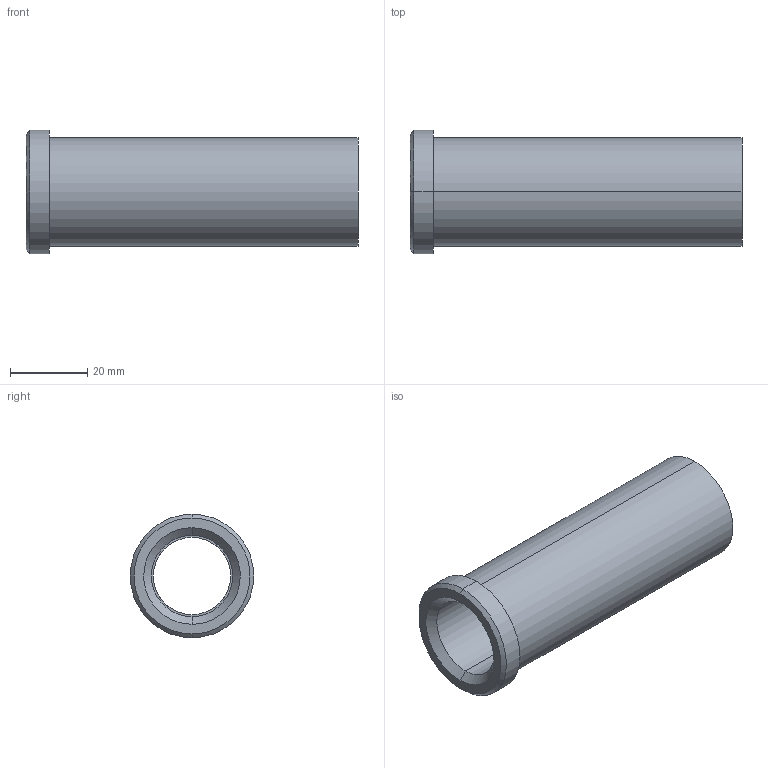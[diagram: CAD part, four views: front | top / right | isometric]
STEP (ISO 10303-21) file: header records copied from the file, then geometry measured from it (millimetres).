
FILE_DESCRIPTION(('CATIA V5 STEP Exchange'),'2;1');
FILE_NAME('C:\Users\Utente\Desktop\IO LAVORO\3D X SITO CF\X SITO\PLASTICA\353\353-20X86.stp','2021-05-08T08:54:07+00:00',('none'),('none'),'CATIA Version 5 Release 20 GA (IN-10)','CATIA V5 STEP AP203','none');
FILE_SCHEMA(('CONFIG_CONTROL_DESIGN'));
Length unit declared in the file: millimetre
Products named in the file (1): 353-20X86
Bounding box: 86 x 32 x 32 mm (x, y, z)
Volume: 25365.8 mm3; surface area: 13996.9 mm2
Topology: 1 solids, 1 shells, 18 faces, 58 edges, 44 vertices
Faces by surface type: cylinder 8, plane 4, cone 4, torus 2
Entity records: 840 total; most frequent: CARTESIAN_POINT 289, ORIENTED_EDGE 116, DIRECTION 82, EDGE_CURVE 58, AXIS2_PLACEMENT_3D 53, VERTEX_POINT 44, CIRCLE 34, EDGE_LOOP 22
